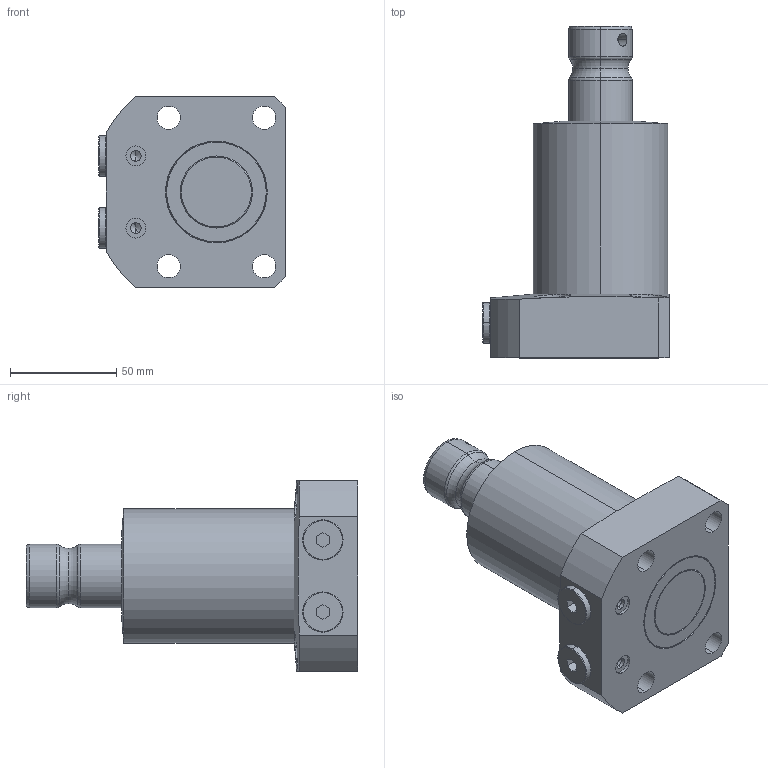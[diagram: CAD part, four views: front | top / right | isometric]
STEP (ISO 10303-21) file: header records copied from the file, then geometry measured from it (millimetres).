
FILE_DESCRIPTION (( 'STEP AP203' ), '1' );
FILE_NAME ('222001-CR.STEP', '2019-06-29T08:06:01', ( '微软用户' ), ( '微软中国' ), 'SwSTEP 2.0', 'SolidWorks 2014', '' );
FILE_SCHEMA (( 'CONFIG_CONTROL_DESIGN' ));
Length unit declared in the file: millimetre
Products named in the file (5): 葩璃 232001.04^222001-CR; 葩璃 232001.01^222001-CR; 222001-CR; 葩璃 222001.02^222001-CR; 葩璃 4BN-04WD^222001-CR
Assembly tree (5 placements, depth 2):
  222001-CR
    葩璃 222001.02^222001-CR
    葩璃 4BN-04WD^222001-CR  x2
    葩璃 232001.01^222001-CR
    葩璃 232001.04^222001-CR
Bounding box: 88 x 156.5 x 90 mm (x, y, z)
Volume: 539228.4 mm3; surface area: 61929.8 mm2
Topology: 5 solids, 5 shells, 142 faces, 302 edges, 188 vertices
Faces by surface type: cylinder 58, plane 48, cone 20, torus 16
Entity records: 4263 total; most frequent: CARTESIAN_POINT 1061, DIRECTION 614, ORIENTED_EDGE 500, AXIS2_PLACEMENT_3D 257, EDGE_CURVE 250, VERTEX_POINT 158, EDGE_LOOP 146, CIRCLE 130
